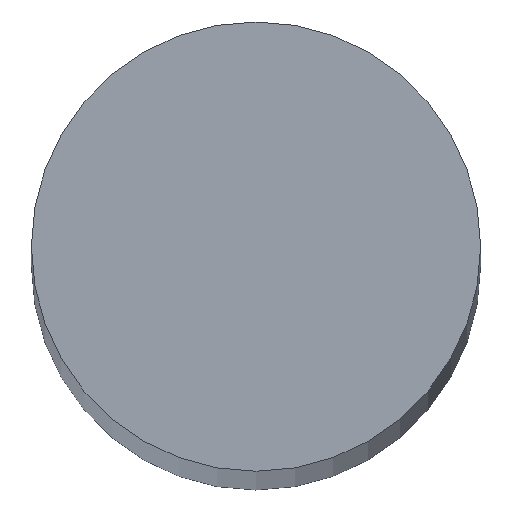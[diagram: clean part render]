
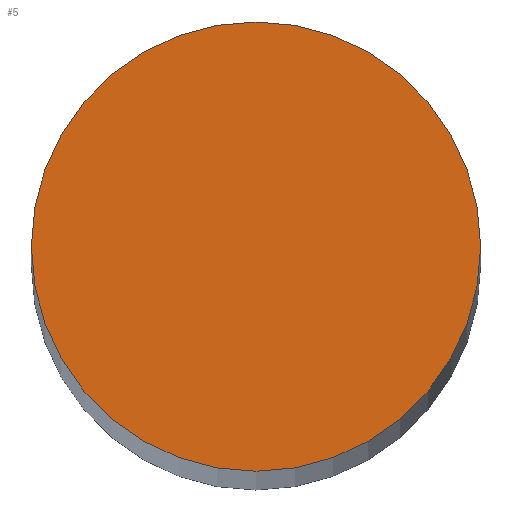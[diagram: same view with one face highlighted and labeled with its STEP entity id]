
A CAD part, top view. The second image highlights one B-rep face of the part: STEP entity #5.
In plain terms, the highlighted planar face has unit normal (0, 0, 1).
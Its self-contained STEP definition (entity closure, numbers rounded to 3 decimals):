
#5 = ADVANCED_FACE ( 'NONE', ( #15 ), #78, .T. ) ;
#15 = FACE_OUTER_BOUND ( 'NONE', #17, .T. ) ;
#17 = EDGE_LOOP ( 'NONE', ( #28, #35 ) ) ;
#28 = ORIENTED_EDGE ( 'NONE', *, *, #121, .T. ) ;
#35 = ORIENTED_EDGE ( 'NONE', *, *, #116, .T. ) ;
#44 = DIRECTION ( 'NONE',  ( 1., 0., 0. ) ) ;
#71 = CARTESIAN_POINT ( 'NONE',  ( 6., 0., 143.5 ) ) ;
#74 = DIRECTION ( 'NONE',  ( 1., 0., 0. ) ) ;
#76 = DIRECTION ( 'NONE',  ( 0., 0., 1. ) ) ;
#78 = PLANE ( 'NONE',  #124 ) ;
#81 = CARTESIAN_POINT ( 'NONE',  ( 0., 0., 143.5 ) ) ;
#83 = VERTEX_POINT ( 'NONE', #91 ) ;
#85 = VERTEX_POINT ( 'NONE', #71 ) ;
#91 = CARTESIAN_POINT ( 'NONE',  ( -6., 0., 143.5 ) ) ;
#92 = CARTESIAN_POINT ( 'NONE',  ( 0., 0., 143.5 ) ) ;
#99 = DIRECTION ( 'NONE',  ( 0., 0., 1. ) ) ;
#100 = DIRECTION ( 'NONE',  ( 1., 0., 0. ) ) ;
#103 = CARTESIAN_POINT ( 'NONE',  ( 0., 0., 143.5 ) ) ;
#104 = DIRECTION ( 'NONE',  ( 0., 0., 1. ) ) ;
#116 = EDGE_CURVE ( 'NONE', #85, #83, #140, .T. ) ;
#119 = AXIS2_PLACEMENT_3D ( 'NONE', #92, #99, #44 ) ;
#121 = EDGE_CURVE ( 'NONE', #83, #85, #136, .T. ) ;
#124 = AXIS2_PLACEMENT_3D ( 'NONE', #81, #76, #74 ) ;
#127 = AXIS2_PLACEMENT_3D ( 'NONE', #103, #104, #100 ) ;
#136 = CIRCLE ( 'NONE', #127, 6. ) ;
#140 = CIRCLE ( 'NONE', #119, 6. ) ;
